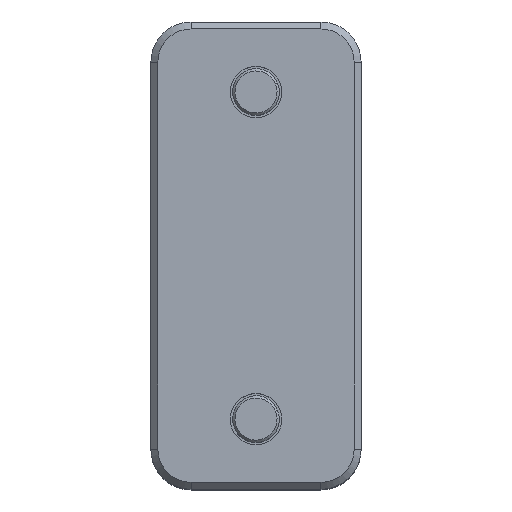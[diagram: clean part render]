
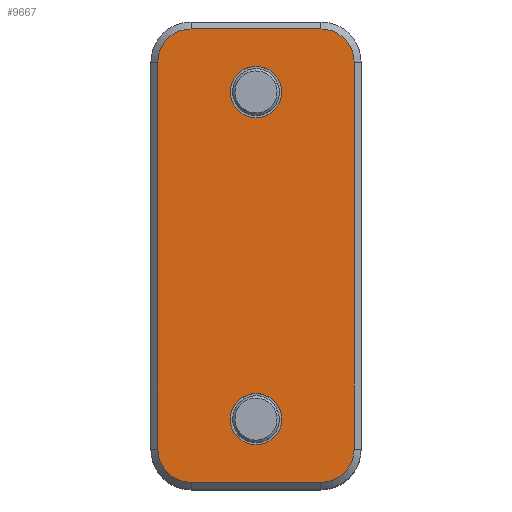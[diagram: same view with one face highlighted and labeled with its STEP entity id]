
A CAD part, top view. The second image highlights one B-rep face of the part: STEP entity #9667.
In plain terms, the highlighted planar face has unit normal (0, 0, 1).
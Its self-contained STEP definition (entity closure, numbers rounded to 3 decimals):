
#511 = DIRECTION ( 'NONE',  ( 0., -1., 0. ) ) ;
#561 = ORIENTED_EDGE ( 'NONE', *, *, #13640, .T. ) ;
#1024 = FACE_BOUND ( 'NONE', #11123, .T. ) ;
#1169 = LINE ( 'NONE', #5906, #8791 ) ;
#1235 = CARTESIAN_POINT ( 'NONE',  ( 13.9, -48.5, 20. ) ) ;
#1485 = CARTESIAN_POINT ( 'NONE',  ( 0., -29.5, 20. ) ) ;
#1603 = AXIS2_PLACEMENT_3D ( 'NONE', #9361, #4163, #6293 ) ;
#1786 = CARTESIAN_POINT ( 'NONE',  ( 13.9, 48.5, 20. ) ) ;
#1842 = CIRCLE ( 'NONE', #11932, 7.1 ) ;
#1870 = DIRECTION ( 'NONE',  ( 0., 0., -1. ) ) ;
#1999 = VERTEX_POINT ( 'NONE', #14024 ) ;
#2539 = VERTEX_POINT ( 'NONE', #1485 ) ;
#2633 = CARTESIAN_POINT ( 'NONE',  ( 22.5, -50., 20. ) ) ;
#3383 = CIRCLE ( 'NONE', #6486, 5.5 ) ;
#3860 = CARTESIAN_POINT ( 'NONE',  ( 13.9, 41.4, 20. ) ) ;
#4149 = VECTOR ( 'NONE', #6676, 1000. ) ;
#4163 = DIRECTION ( 'NONE',  ( 0., 0., 1. ) ) ;
#4315 = ORIENTED_EDGE ( 'NONE', *, *, #10692, .T. ) ;
#4538 = CIRCLE ( 'NONE', #11320, 5.5 ) ;
#4762 = ORIENTED_EDGE ( 'NONE', *, *, #13905, .T. ) ;
#4864 = EDGE_CURVE ( 'NONE', #2539, #6440, #8456, .T. ) ;
#4897 = EDGE_CURVE ( 'NONE', #6682, #7684, #1842, .T. ) ;
#4953 = PLANE ( 'NONE',  #8720 ) ;
#5078 = ORIENTED_EDGE ( 'NONE', *, *, #4864, .T. ) ;
#5518 = CARTESIAN_POINT ( 'NONE',  ( 21., -50., 20. ) ) ;
#5529 = EDGE_CURVE ( 'NONE', #1999, #13738, #1169, .T. ) ;
#5669 = DIRECTION ( 'NONE',  ( 0., 1., 0. ) ) ;
#5680 = ORIENTED_EDGE ( 'NONE', *, *, #11109, .T. ) ;
#5906 = CARTESIAN_POINT ( 'NONE',  ( -21., -41.4, 20. ) ) ;
#5932 = CARTESIAN_POINT ( 'NONE',  ( -13.9, 48.5, 20. ) ) ;
#5947 = FACE_BOUND ( 'NONE', #9051, .T. ) ;
#5963 = AXIS2_PLACEMENT_3D ( 'NONE', #13855, #9549, #12669 ) ;
#6268 = DIRECTION ( 'NONE',  ( 0., 1., 0. ) ) ;
#6293 = DIRECTION ( 'NONE',  ( -1., 0., 0. ) ) ;
#6440 = VERTEX_POINT ( 'NONE', #13210 ) ;
#6486 = AXIS2_PLACEMENT_3D ( 'NONE', #10589, #1870, #11572 ) ;
#6586 = CIRCLE ( 'NONE', #12217, 7.1 ) ;
#6676 = DIRECTION ( 'NONE',  ( 0., 1., 0. ) ) ;
#6682 = VERTEX_POINT ( 'NONE', #1235 ) ;
#6840 = CARTESIAN_POINT ( 'NONE',  ( 21., 41.4, 20. ) ) ;
#7684 = VERTEX_POINT ( 'NONE', #12401 ) ;
#7749 = LINE ( 'NONE', #9198, #10297 ) ;
#7962 = EDGE_LOOP ( 'NONE', ( #11657, #561, #4762, #10880, #13358, #10734, #4315, #5680 ) ) ;
#8039 = CIRCLE ( 'NONE', #10898, 7.1 ) ;
#8104 = ORIENTED_EDGE ( 'NONE', *, *, #10691, .T. ) ;
#8105 = CIRCLE ( 'NONE', #1603, 7.1 ) ;
#8137 = CARTESIAN_POINT ( 'NONE',  ( 13.9, -41.4, 20. ) ) ;
#8138 = CARTESIAN_POINT ( 'NONE',  ( 22.5, 48.5, 20. ) ) ;
#8456 = CIRCLE ( 'NONE', #10930, 5.5 ) ;
#8470 = VECTOR ( 'NONE', #11403, 1000. ) ;
#8548 = VERTEX_POINT ( 'NONE', #11871 ) ;
#8720 = AXIS2_PLACEMENT_3D ( 'NONE', #2633, #10202, #12421 ) ;
#8791 = VECTOR ( 'NONE', #511, 1000. ) ;
#9051 = EDGE_LOOP ( 'NONE', ( #8104, #9661 ) ) ;
#9198 = CARTESIAN_POINT ( 'NONE',  ( 22.5, -48.5, 20. ) ) ;
#9230 = DIRECTION ( 'NONE',  ( 0., 0., -1. ) ) ;
#9361 = CARTESIAN_POINT ( 'NONE',  ( -13.9, -41.4, 20. ) ) ;
#9549 = DIRECTION ( 'NONE',  ( 0., 0., -1. ) ) ;
#9661 = ORIENTED_EDGE ( 'NONE', *, *, #9789, .T. ) ;
#9667 = ADVANCED_FACE ( 'NONE', ( #12729, #5947, #1024 ), #4953, .F. ) ;
#9789 = EDGE_CURVE ( 'NONE', #8548, #10324, #3383, .T. ) ;
#9920 = EDGE_CURVE ( 'NONE', #13397, #10424, #13205, .T. ) ;
#10202 = DIRECTION ( 'NONE',  ( 0., 0., -1. ) ) ;
#10288 = DIRECTION ( 'NONE',  ( 1., 0., 0. ) ) ;
#10297 = VECTOR ( 'NONE', #10288, 1000. ) ;
#10324 = VERTEX_POINT ( 'NONE', #13367 ) ;
#10365 = CARTESIAN_POINT ( 'NONE',  ( -13.9, 41.4, 20. ) ) ;
#10383 = ORIENTED_EDGE ( 'NONE', *, *, #12362, .T. ) ;
#10424 = VERTEX_POINT ( 'NONE', #5932 ) ;
#10589 = CARTESIAN_POINT ( 'NONE',  ( 0., 35., 20. ) ) ;
#10691 = EDGE_CURVE ( 'NONE', #10324, #8548, #10988, .T. ) ;
#10692 = EDGE_CURVE ( 'NONE', #13738, #12751, #8105, .T. ) ;
#10734 = ORIENTED_EDGE ( 'NONE', *, *, #5529, .T. ) ;
#10880 = ORIENTED_EDGE ( 'NONE', *, *, #9920, .T. ) ;
#10898 = AXIS2_PLACEMENT_3D ( 'NONE', #3860, #12617, #12514 ) ;
#10930 = AXIS2_PLACEMENT_3D ( 'NONE', #13535, #9230, #5669 ) ;
#10988 = CIRCLE ( 'NONE', #5963, 5.5 ) ;
#11109 = EDGE_CURVE ( 'NONE', #12751, #6682, #7749, .T. ) ;
#11123 = EDGE_LOOP ( 'NONE', ( #5078, #10383 ) ) ;
#11320 = AXIS2_PLACEMENT_3D ( 'NONE', #11793, #12756, #6268 ) ;
#11403 = DIRECTION ( 'NONE',  ( -1., 0., 0. ) ) ;
#11572 = DIRECTION ( 'NONE',  ( 0., 1., 0. ) ) ;
#11657 = ORIENTED_EDGE ( 'NONE', *, *, #4897, .T. ) ;
#11762 = EDGE_CURVE ( 'NONE', #10424, #1999, #6586, .T. ) ;
#11793 = CARTESIAN_POINT ( 'NONE',  ( 0., -35., 20. ) ) ;
#11871 = CARTESIAN_POINT ( 'NONE',  ( 0., 29.5, 20. ) ) ;
#11884 = CARTESIAN_POINT ( 'NONE',  ( -13.9, -48.5, 20. ) ) ;
#11932 = AXIS2_PLACEMENT_3D ( 'NONE', #8137, #13254, #12446 ) ;
#12217 = AXIS2_PLACEMENT_3D ( 'NONE', #10365, #12582, #12638 ) ;
#12362 = EDGE_CURVE ( 'NONE', #6440, #2539, #4538, .T. ) ;
#12401 = CARTESIAN_POINT ( 'NONE',  ( 21., -41.4, 20. ) ) ;
#12421 = DIRECTION ( 'NONE',  ( -1., 0., 0. ) ) ;
#12424 = CARTESIAN_POINT ( 'NONE',  ( -21., -41.4, 20. ) ) ;
#12446 = DIRECTION ( 'NONE',  ( -1., 0., 0. ) ) ;
#12473 = VERTEX_POINT ( 'NONE', #6840 ) ;
#12514 = DIRECTION ( 'NONE',  ( -1., 0., 0. ) ) ;
#12582 = DIRECTION ( 'NONE',  ( 0., 0., 1. ) ) ;
#12605 = LINE ( 'NONE', #5518, #4149 ) ;
#12617 = DIRECTION ( 'NONE',  ( 0., 0., 1. ) ) ;
#12638 = DIRECTION ( 'NONE',  ( -1., 0., 0. ) ) ;
#12669 = DIRECTION ( 'NONE',  ( 0., 1., 0. ) ) ;
#12729 = FACE_OUTER_BOUND ( 'NONE', #7962, .T. ) ;
#12751 = VERTEX_POINT ( 'NONE', #11884 ) ;
#12756 = DIRECTION ( 'NONE',  ( 0., 0., -1. ) ) ;
#13205 = LINE ( 'NONE', #8138, #8470 ) ;
#13210 = CARTESIAN_POINT ( 'NONE',  ( 0., -40.5, 20. ) ) ;
#13254 = DIRECTION ( 'NONE',  ( 0., 0., 1. ) ) ;
#13358 = ORIENTED_EDGE ( 'NONE', *, *, #11762, .T. ) ;
#13367 = CARTESIAN_POINT ( 'NONE',  ( 0., 40.5, 20. ) ) ;
#13397 = VERTEX_POINT ( 'NONE', #1786 ) ;
#13535 = CARTESIAN_POINT ( 'NONE',  ( 0., -35., 20. ) ) ;
#13640 = EDGE_CURVE ( 'NONE', #7684, #12473, #12605, .T. ) ;
#13738 = VERTEX_POINT ( 'NONE', #12424 ) ;
#13855 = CARTESIAN_POINT ( 'NONE',  ( 0., 35., 20. ) ) ;
#13905 = EDGE_CURVE ( 'NONE', #12473, #13397, #8039, .T. ) ;
#14024 = CARTESIAN_POINT ( 'NONE',  ( -21., 41.4, 20. ) ) ;
